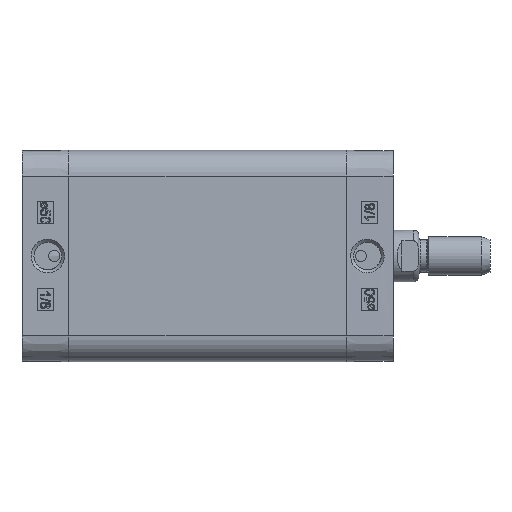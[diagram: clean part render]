
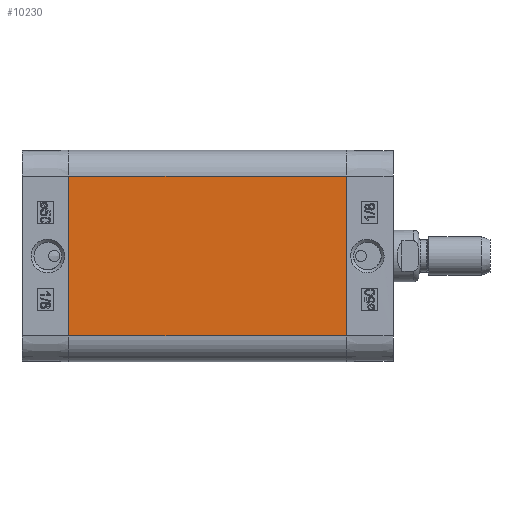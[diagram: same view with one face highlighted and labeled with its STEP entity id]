
A CAD part, left-side view. The second image highlights one B-rep face of the part: STEP entity #10230.
In plain terms, the highlighted planar face has unit normal (-1, 0, 0).
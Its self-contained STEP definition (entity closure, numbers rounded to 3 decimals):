
#5232=CARTESIAN_POINT('',(-32.75,-86.0,24.75));
#5233=VERTEX_POINT('',#5232);
#5240=CARTESIAN_POINT('',(-32.75,-86.0,-24.75));
#5241=VERTEX_POINT('',#5240);
#5242=CARTESIAN_POINT('',(-32.75,-86.0,-24.75));
#5243=DIRECTION('',(0.0,0.0,1.0));
#5244=VECTOR('',#5243,49.5);
#5245=LINE('',#5242,#5244);
#5246=EDGE_CURVE('',#5241,#5233,#5245,.T.);
#10188=CARTESIAN_POINT('',(-32.75,0.0,-24.75));
#10189=VERTEX_POINT('',#10188);
#10190=CARTESIAN_POINT('',(-32.75,0.0,-24.75));
#10191=DIRECTION('',(0.0,-1.0,0.0));
#10192=VECTOR('',#10191,86.0);
#10193=LINE('',#10190,#10192);
#10194=EDGE_CURVE('',#10189,#5241,#10193,.T.);
#10207=CARTESIAN_POINT('',(-32.75,0.0,-24.75));
#10208=DIRECTION('',(-1.0,0.0,0.0));
#10209=DIRECTION('',(0.0,0.0,1.0));
#10210=AXIS2_PLACEMENT_3D('',#10207,#10208,#10209);
#10211=PLANE('',#10210);
#10212=ORIENTED_EDGE('',*,*,#5246,.T.);
#10213=CARTESIAN_POINT('',(-32.75,0.0,24.75));
#10214=VERTEX_POINT('',#10213);
#10215=CARTESIAN_POINT('',(-32.75,0.0,24.75));
#10216=DIRECTION('',(0.0,-1.0,0.0));
#10217=VECTOR('',#10216,86.0);
#10218=LINE('',#10215,#10217);
#10219=EDGE_CURVE('',#10214,#5233,#10218,.T.);
#10220=ORIENTED_EDGE('',*,*,#10219,.F.);
#10221=CARTESIAN_POINT('',(-32.75,0.0,-24.75));
#10222=DIRECTION('',(0.0,0.0,1.0));
#10223=VECTOR('',#10222,49.5);
#10224=LINE('',#10221,#10223);
#10225=EDGE_CURVE('',#10189,#10214,#10224,.T.);
#10226=ORIENTED_EDGE('',*,*,#10225,.F.);
#10227=ORIENTED_EDGE('',*,*,#10194,.T.);
#10228=EDGE_LOOP('',(#10212,#10220,#10226,#10227));
#10229=FACE_OUTER_BOUND('',#10228,.T.);
#10230=ADVANCED_FACE('',(#10229),#10211,.T.);
